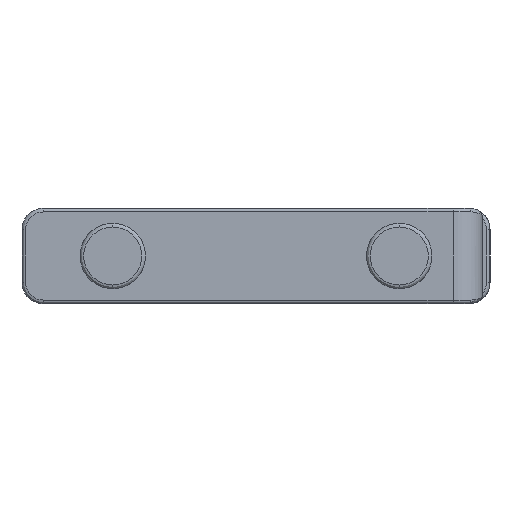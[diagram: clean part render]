
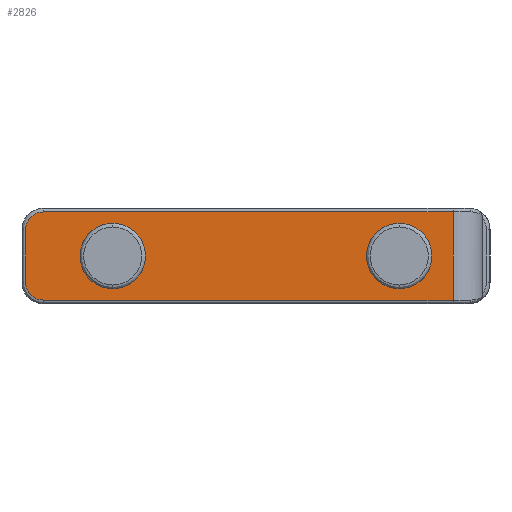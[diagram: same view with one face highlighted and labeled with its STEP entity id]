
A CAD part, left-side view. The second image highlights one B-rep face of the part: STEP entity #2826.
In plain terms, the highlighted planar face has unit normal (-1, 0, 0).
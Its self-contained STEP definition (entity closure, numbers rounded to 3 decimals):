
#302 = VERTEX_POINT ( 'NONE', #1103 ) ;
#406 = VERTEX_POINT ( 'NONE', #1247 ) ;
#407 = EDGE_CURVE ( 'NONE', #412, #406, #1240, .T. ) ;
#412 = VERTEX_POINT ( 'NONE', #1297 ) ;
#1103 = CARTESIAN_POINT ( 'NONE',  ( -483.2, 31.35, -3.6 ) ) ;
#1236 = DIRECTION ( 'NONE',  ( 0., 0., -1. ) ) ;
#1237 = DIRECTION ( 'NONE',  ( -1., 0., 0. ) ) ;
#1238 = CARTESIAN_POINT ( 'NONE',  ( -483.2, -19.5, 0. ) ) ;
#1239 = AXIS2_PLACEMENT_3D ( 'NONE', #1238, #1237, #1236 ) ;
#1240 = CIRCLE ( 'NONE', #1239, 4.45 ) ;
#1247 = CARTESIAN_POINT ( 'NONE',  ( -483.2, -19.5, -4.45 ) ) ;
#1297 = CARTESIAN_POINT ( 'NONE',  ( -483.2, -19.5, 4.45 ) ) ;
#1727 = CARTESIAN_POINT ( 'NONE',  ( -483.2, -26.82, -6. ) ) ;
#1728 = DIRECTION ( 'NONE',  ( 0., 0., -1. ) ) ;
#1729 = DIRECTION ( 'NONE',  ( -1., 0., 0. ) ) ;
#1730 = CARTESIAN_POINT ( 'NONE',  ( -483.2, -19.5, 0. ) ) ;
#1731 = AXIS2_PLACEMENT_3D ( 'NONE', #1730, #1729, #1728 ) ;
#1732 = CIRCLE ( 'NONE', #1731, 4.45 ) ;
#1733 = CARTESIAN_POINT ( 'NONE',  ( -483.2, -26.82, 6. ) ) ;
#1815 = CARTESIAN_POINT ( 'NONE',  ( -483.2, 28.95, 3.6 ) ) ;
#1816 = AXIS2_PLACEMENT_3D ( 'NONE', #1815, #1880, #1879 ) ;
#1817 = CIRCLE ( 'NONE', #1816, 2.4 ) ;
#1818 = CARTESIAN_POINT ( 'NONE',  ( -483.2, 31.35, 3.6 ) ) ;
#1823 = DIRECTION ( 'NONE',  ( 0., 0., -1. ) ) ;
#1824 = VECTOR ( 'NONE', #1823, 1000. ) ;
#1825 = CARTESIAN_POINT ( 'NONE',  ( -483.2, -26.82, -7.5 ) ) ;
#1826 = LINE ( 'NONE', #1825, #1824 ) ;
#1827 = DIRECTION ( 'NONE',  ( 0., 1., 0. ) ) ;
#1828 = VECTOR ( 'NONE', #1827, 1000. ) ;
#1829 = CARTESIAN_POINT ( 'NONE',  ( -483.2, 28.95, 6. ) ) ;
#1830 = LINE ( 'NONE', #1829, #1828 ) ;
#1831 = CARTESIAN_POINT ( 'NONE',  ( -483.2, 28.95, 6. ) ) ;
#1832 = DIRECTION ( 'NONE',  ( 0., 0., -1. ) ) ;
#1833 = DIRECTION ( 'NONE',  ( -1., 0., 0. ) ) ;
#1834 = AXIS2_PLACEMENT_3D ( 'NONE', #1840, #1833, #1832 ) ;
#1835 = CIRCLE ( 'NONE', #1834, 4.45 ) ;
#1840 = CARTESIAN_POINT ( 'NONE',  ( -483.2, 19.5, 0. ) ) ;
#1851 = DIRECTION ( 'NONE',  ( 0., 0., -1. ) ) ;
#1852 = DIRECTION ( 'NONE',  ( 1., 0., 0. ) ) ;
#1853 = CARTESIAN_POINT ( 'NONE',  ( -483.2, -27.9, -2.9 ) ) ;
#1856 = AXIS2_PLACEMENT_3D ( 'NONE', #1853, #1852, #1851 ) ;
#1857 = PLANE ( 'NONE',  #1856 ) ;
#1858 = FACE_BOUND ( 'NONE', #2822, .T. ) ;
#1860 = FACE_OUTER_BOUND ( 'NONE', #2828, .T. ) ;
#1861 = FACE_BOUND ( 'NONE', #3181, .T. ) ;
#1862 = DIRECTION ( 'NONE',  ( 0., 0., -1. ) ) ;
#1864 = DIRECTION ( 'NONE',  ( -1., 0., 0. ) ) ;
#1865 = CARTESIAN_POINT ( 'NONE',  ( -483.2, 28.95, -3.6 ) ) ;
#1866 = AXIS2_PLACEMENT_3D ( 'NONE', #1865, #1864, #1862 ) ;
#1867 = CIRCLE ( 'NONE', #1866, 2.4 ) ;
#1870 = DIRECTION ( 'NONE',  ( 0., -1., 0. ) ) ;
#1871 = VECTOR ( 'NONE', #1870, 1000. ) ;
#1872 = CARTESIAN_POINT ( 'NONE',  ( -483.2, -26.82, -6. ) ) ;
#1873 = LINE ( 'NONE', #1872, #1871 ) ;
#1874 = DIRECTION ( 'NONE',  ( 0., 0., -1. ) ) ;
#1875 = VECTOR ( 'NONE', #1874, 1000. ) ;
#1876 = CARTESIAN_POINT ( 'NONE',  ( -483.2, 31.35, -3.6 ) ) ;
#1877 = LINE ( 'NONE', #1876, #1875 ) ;
#1878 = CARTESIAN_POINT ( 'NONE',  ( -483.2, 28.95, -6. ) ) ;
#1879 = DIRECTION ( 'NONE',  ( 0., 0., -1. ) ) ;
#1880 = DIRECTION ( 'NONE',  ( -1., 0., 0. ) ) ;
#1944 = AXIS2_PLACEMENT_3D ( 'NONE', #2007, #2006, #2005 ) ;
#1945 = CIRCLE ( 'NONE', #1944, 4.45 ) ;
#1955 = CARTESIAN_POINT ( 'NONE',  ( -483.2, 19.5, -4.45 ) ) ;
#1998 = CARTESIAN_POINT ( 'NONE',  ( -483.2, 19.5, 4.45 ) ) ;
#2005 = DIRECTION ( 'NONE',  ( 0., 0., -1. ) ) ;
#2006 = DIRECTION ( 'NONE',  ( -1., 0., 0. ) ) ;
#2007 = CARTESIAN_POINT ( 'NONE',  ( -483.2, 19.5, 0. ) ) ;
#2749 = ORIENTED_EDGE ( 'NONE', *, *, #2825, .T. ) ;
#2756 = VERTEX_POINT ( 'NONE', #1733 ) ;
#2757 = EDGE_CURVE ( 'NONE', #406, #412, #1732, .T. ) ;
#2760 = VERTEX_POINT ( 'NONE', #1727 ) ;
#2810 = ORIENTED_EDGE ( 'NONE', *, *, #2814, .T. ) ;
#2811 = EDGE_CURVE ( 'NONE', #2914, #2922, #1835, .T. ) ;
#2812 = VERTEX_POINT ( 'NONE', #1831 ) ;
#2813 = ORIENTED_EDGE ( 'NONE', *, *, #2819, .T. ) ;
#2814 = EDGE_CURVE ( 'NONE', #2756, #2812, #1830, .T. ) ;
#2815 = ORIENTED_EDGE ( 'NONE', *, *, #2821, .T. ) ;
#2816 = EDGE_CURVE ( 'NONE', #2756, #2760, #1826, .T. ) ;
#2818 = VERTEX_POINT ( 'NONE', #1818 ) ;
#2819 = EDGE_CURVE ( 'NONE', #2812, #2818, #1817, .T. ) ;
#2820 = VERTEX_POINT ( 'NONE', #1878 ) ;
#2821 = EDGE_CURVE ( 'NONE', #2818, #302, #1877, .T. ) ;
#2822 = EDGE_LOOP ( 'NONE', ( #2834, #2832 ) ) ;
#2823 = EDGE_CURVE ( 'NONE', #2820, #2760, #1873, .T. ) ;
#2824 = ORIENTED_EDGE ( 'NONE', *, *, #2823, .T. ) ;
#2825 = EDGE_CURVE ( 'NONE', #302, #2820, #1867, .T. ) ;
#2826 = ADVANCED_FACE ( 'NONE', ( #1861, #1860, #1858 ), #1857, .F. ) ;
#2827 = ORIENTED_EDGE ( 'NONE', *, *, #2811, .F. ) ;
#2828 = EDGE_LOOP ( 'NONE', ( #2829, #2810, #2813, #2815, #2749, #2824 ) ) ;
#2829 = ORIENTED_EDGE ( 'NONE', *, *, #2816, .F. ) ;
#2830 = ORIENTED_EDGE ( 'NONE', *, *, #2916, .F. ) ;
#2832 = ORIENTED_EDGE ( 'NONE', *, *, #407, .F. ) ;
#2834 = ORIENTED_EDGE ( 'NONE', *, *, #2757, .F. ) ;
#2914 = VERTEX_POINT ( 'NONE', #1955 ) ;
#2916 = EDGE_CURVE ( 'NONE', #2922, #2914, #1945, .T. ) ;
#2922 = VERTEX_POINT ( 'NONE', #1998 ) ;
#3181 = EDGE_LOOP ( 'NONE', ( #2827, #2830 ) ) ;
